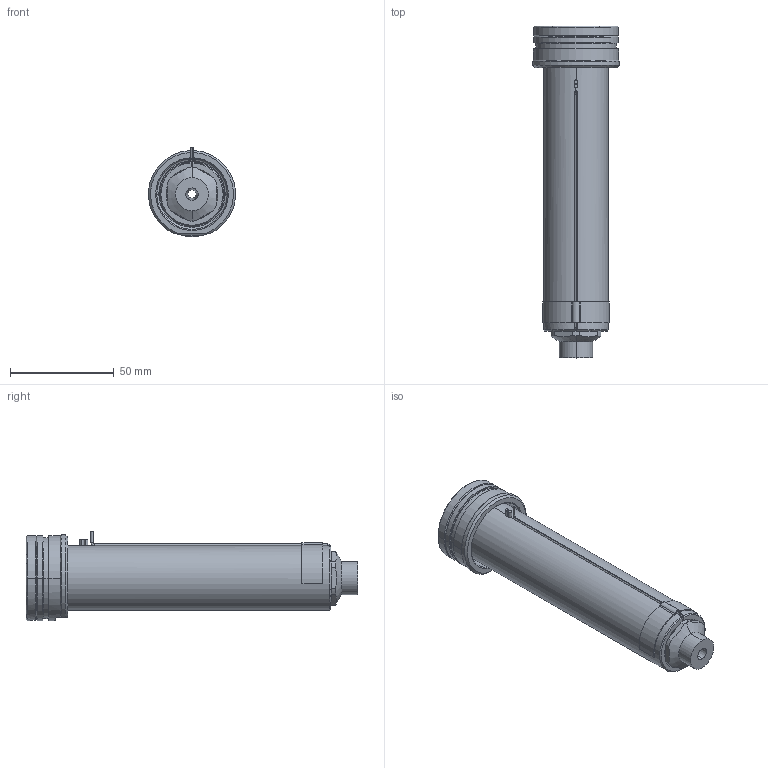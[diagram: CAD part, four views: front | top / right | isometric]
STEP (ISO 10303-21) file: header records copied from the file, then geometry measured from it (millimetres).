
FILE_DESCRIPTION((''),'2;1');
FILE_NAME('EO12_VG-ST_STD_140_SW','2024-02-19T12:50:53',('sundharh'),(''),'CREO PARAMETRIC BY PTC INC, 2023154','CREO PARAMETRIC BY PTC INC, 2023154','');
FILE_SCHEMA(('CONFIG_CONTROL_DESIGN'));
Length unit declared in the file: millimetre
Products named in the file (1): EO12_VG-ST_STD_140_SW
Bounding box: 41.85 x 160 x 43 mm (x, y, z)
Volume: 106905.6 mm3; surface area: 28410.5 mm2
Topology: 2 solids, 3 shells, 181 faces, 453 edges, 277 vertices
Faces by surface type: cylinder 65, plane 45, cone 37, torus 27, bspline 5, sphere 2
Entity records: 6159 total; most frequent: CARTESIAN_POINT 1724, DIRECTION 986, ORIENTED_EDGE 898, EDGE_CURVE 449, AXIS2_PLACEMENT_3D 412, VERTEX_POINT 277, CIRCLE 236, EDGE_LOOP 196
